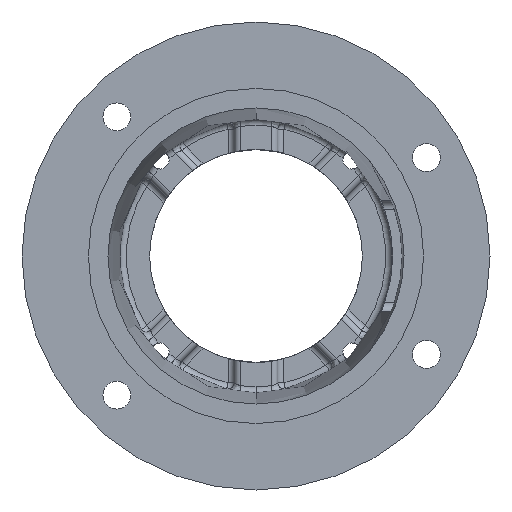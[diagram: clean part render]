
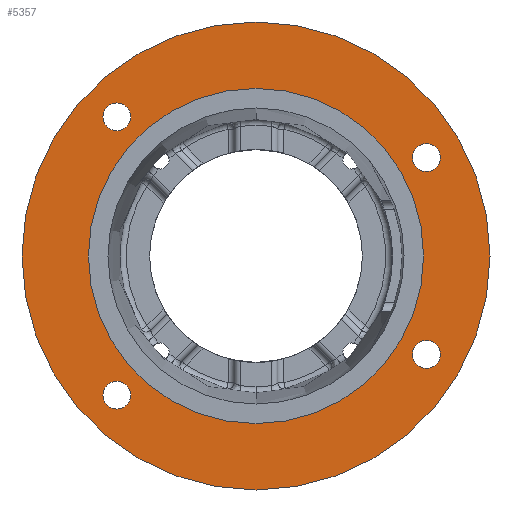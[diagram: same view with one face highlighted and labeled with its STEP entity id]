
A CAD part, front view. The second image highlights one B-rep face of the part: STEP entity #5357.
In plain terms, the highlighted planar face has unit normal (0, -1, 0).
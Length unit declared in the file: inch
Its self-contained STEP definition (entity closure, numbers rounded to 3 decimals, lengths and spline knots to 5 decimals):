
#368 = CARTESIAN_POINT ( 'NONE',  ( -3.27037, 0., -2.94224 ) ) ;
#427 = AXIS2_PLACEMENT_3D ( 'NONE', #12042, #5772, #13085 ) ;
#643 = ORIENTED_EDGE ( 'NONE', *, *, #6826, .F. ) ;
#688 = VERTEX_POINT ( 'NONE', #12133 ) ;
#739 = DIRECTION ( 'NONE',  ( 0., -1., 0. ) ) ;
#740 = DIRECTION ( 'NONE',  ( 0., -1., 0. ) ) ;
#776 = CIRCLE ( 'NONE', #10566, 0.32812 ) ;
#809 = AXIS2_PLACEMENT_3D ( 'NONE', #875, #8376, #2003 ) ;
#875 = CARTESIAN_POINT ( 'NONE',  ( 0., 0., 0. ) ) ;
#958 = VERTEX_POINT ( 'NONE', #7758 ) ;
#1030 = AXIS2_PLACEMENT_3D ( 'NONE', #8005, #1617, #9056 ) ;
#1033 = DIRECTION ( 'NONE',  ( 0., -1., 0. ) ) ;
#1495 = CIRCLE ( 'NONE', #5840, 0.32812 ) ;
#1596 = EDGE_LOOP ( 'NONE', ( #13241, #8088 ) ) ;
#1617 = DIRECTION ( 'NONE',  ( 0., -1., 0. ) ) ;
#1801 = ORIENTED_EDGE ( 'NONE', *, *, #4926, .F. ) ;
#2003 = DIRECTION ( 'NONE',  ( 0., 0., -1. ) ) ;
#2177 = CARTESIAN_POINT ( 'NONE',  ( -5.5, 0., 0. ) ) ;
#2461 = AXIS2_PLACEMENT_3D ( 'NONE', #10995, #4760, #12060 ) ;
#2519 = EDGE_CURVE ( 'NONE', #4285, #9433, #4364, .T. ) ;
#2583 = DIRECTION ( 'NONE',  ( 0., -1., 0. ) ) ;
#2680 = CARTESIAN_POINT ( 'NONE',  ( 0., 0., -5.5 ) ) ;
#2692 = CARTESIAN_POINT ( 'NONE',  ( 4.00537, 0., 2.64062 ) ) ;
#2835 = CARTESIAN_POINT ( 'NONE',  ( 4.00537, 0., 1.98437 ) ) ;
#3043 = CIRCLE ( 'NONE', #2461, 5.5 ) ;
#3450 = CIRCLE ( 'NONE', #4695, 0.32812 ) ;
#3554 = CARTESIAN_POINT ( 'NONE',  ( -3.27037, 0., -3.27037 ) ) ;
#3746 = VERTEX_POINT ( 'NONE', #4020 ) ;
#4020 = CARTESIAN_POINT ( 'NONE',  ( -3.27037, 0., 2.94224 ) ) ;
#4285 = VERTEX_POINT ( 'NONE', #9624 ) ;
#4364 = CIRCLE ( 'NONE', #9177, 0.32812 ) ;
#4638 = EDGE_CURVE ( 'NONE', #8581, #3746, #4839, .T. ) ;
#4678 = DIRECTION ( 'NONE',  ( 0., 0., -1. ) ) ;
#4695 = AXIS2_PLACEMENT_3D ( 'NONE', #7474, #1033, #8522 ) ;
#4760 = DIRECTION ( 'NONE',  ( 0., -1., 0. ) ) ;
#4768 = EDGE_CURVE ( 'NONE', #5009, #958, #3450, .T. ) ;
#4839 = CIRCLE ( 'NONE', #7049, 0.32812 ) ;
#4926 = EDGE_CURVE ( 'NONE', #958, #5009, #8394, .T. ) ;
#5009 = VERTEX_POINT ( 'NONE', #368 ) ;
#5024 = DIRECTION ( 'NONE',  ( 0., -1., 0. ) ) ;
#5340 = VERTEX_POINT ( 'NONE', #11637 ) ;
#5357 = ADVANCED_FACE ( 'NONE', ( #6738, #8859, #8544, #11308, #6083, #13779 ), #10629, .F. ) ;
#5772 = DIRECTION ( 'NONE',  ( 0., -1., 0. ) ) ;
#5792 = EDGE_CURVE ( 'NONE', #8213, #688, #13283, .T. ) ;
#5840 = AXIS2_PLACEMENT_3D ( 'NONE', #8949, #2583, #9989 ) ;
#5985 = ORIENTED_EDGE ( 'NONE', *, *, #2519, .F. ) ;
#6083 = FACE_BOUND ( 'NONE', #1596, .T. ) ;
#6119 = VERTEX_POINT ( 'NONE', #2680 ) ;
#6124 = CARTESIAN_POINT ( 'NONE',  ( 0., 0., 0. ) ) ;
#6281 = DIRECTION ( 'NONE',  ( 0., 0., -1. ) ) ;
#6299 = ORIENTED_EDGE ( 'NONE', *, *, #11762, .T. ) ;
#6306 = AXIS2_PLACEMENT_3D ( 'NONE', #11275, #5024, #12311 ) ;
#6485 = DIRECTION ( 'NONE',  ( 0., 1., 0. ) ) ;
#6527 = CARTESIAN_POINT ( 'NONE',  ( 0., 0., 3.9385 ) ) ;
#6738 = FACE_BOUND ( 'NONE', #12981, .T. ) ;
#6826 = EDGE_CURVE ( 'NONE', #9433, #4285, #12259, .T. ) ;
#6965 = EDGE_LOOP ( 'NONE', ( #10778, #6299 ) ) ;
#7049 = AXIS2_PLACEMENT_3D ( 'NONE', #7198, #740, #8242 ) ;
#7162 = CIRCLE ( 'NONE', #6306, 0.32812 ) ;
#7188 = DIRECTION ( 'NONE',  ( 0., 0., -1. ) ) ;
#7197 = CARTESIAN_POINT ( 'NONE',  ( 4.00537, 0., 2.3125 ) ) ;
#7198 = CARTESIAN_POINT ( 'NONE',  ( -3.27037, 0., 3.27037 ) ) ;
#7207 = EDGE_CURVE ( 'NONE', #12834, #9292, #1495, .T. ) ;
#7305 = DIRECTION ( 'NONE',  ( 0., -1., 0. ) ) ;
#7354 = CARTESIAN_POINT ( 'NONE',  ( 4.00537, 0., -2.3125 ) ) ;
#7389 = CIRCLE ( 'NONE', #809, 3.9385 ) ;
#7395 = CARTESIAN_POINT ( 'NONE',  ( -3.27037, 0., 3.59849 ) ) ;
#7474 = CARTESIAN_POINT ( 'NONE',  ( -3.27037, 0., -3.27037 ) ) ;
#7758 = CARTESIAN_POINT ( 'NONE',  ( -3.27037, 0., -3.59849 ) ) ;
#7891 = EDGE_CURVE ( 'NONE', #3746, #8581, #7162, .T. ) ;
#7907 = ORIENTED_EDGE ( 'NONE', *, *, #7207, .F. ) ;
#8005 = CARTESIAN_POINT ( 'NONE',  ( 4.00537, 0., -2.3125 ) ) ;
#8088 = ORIENTED_EDGE ( 'NONE', *, *, #5792, .F. ) ;
#8091 = EDGE_LOOP ( 'NONE', ( #9242, #10813 ) ) ;
#8213 = VERTEX_POINT ( 'NONE', #6527 ) ;
#8239 = DIRECTION ( 'NONE',  ( 0., 0., -1. ) ) ;
#8242 = DIRECTION ( 'NONE',  ( 0., 0., -1. ) ) ;
#8376 = DIRECTION ( 'NONE',  ( 0., -1., 0. ) ) ;
#8394 = CIRCLE ( 'NONE', #12377, 0.32812 ) ;
#8522 = DIRECTION ( 'NONE',  ( 0., 0., -1. ) ) ;
#8544 = FACE_BOUND ( 'NONE', #10397, .T. ) ;
#8547 = AXIS2_PLACEMENT_3D ( 'NONE', #6124, #13445, #7188 ) ;
#8581 = VERTEX_POINT ( 'NONE', #7395 ) ;
#8859 = FACE_BOUND ( 'NONE', #13323, .T. ) ;
#8949 = CARTESIAN_POINT ( 'NONE',  ( 4.00537, 0., 2.3125 ) ) ;
#9033 = ORIENTED_EDGE ( 'NONE', *, *, #13239, .F. ) ;
#9056 = DIRECTION ( 'NONE',  ( 0., 0., -1. ) ) ;
#9177 = AXIS2_PLACEMENT_3D ( 'NONE', #7354, #7305, #6281 ) ;
#9242 = ORIENTED_EDGE ( 'NONE', *, *, #7891, .F. ) ;
#9248 = ORIENTED_EDGE ( 'NONE', *, *, #4768, .F. ) ;
#9292 = VERTEX_POINT ( 'NONE', #2835 ) ;
#9433 = VERTEX_POINT ( 'NONE', #11596 ) ;
#9624 = CARTESIAN_POINT ( 'NONE',  ( 4.00537, 0., -2.64063 ) ) ;
#9756 = AXIS2_PLACEMENT_3D ( 'NONE', #2177, #6485, #13802 ) ;
#9989 = DIRECTION ( 'NONE',  ( 0., 0., -1. ) ) ;
#10397 = EDGE_LOOP ( 'NONE', ( #1801, #9248 ) ) ;
#10566 = AXIS2_PLACEMENT_3D ( 'NONE', #7197, #739, #8239 ) ;
#10629 = PLANE ( 'NONE',  #9756 ) ;
#10778 = ORIENTED_EDGE ( 'NONE', *, *, #12165, .T. ) ;
#10813 = ORIENTED_EDGE ( 'NONE', *, *, #4638, .F. ) ;
#10910 = DIRECTION ( 'NONE',  ( 0., -1., 0. ) ) ;
#10933 = CIRCLE ( 'NONE', #427, 5.5 ) ;
#10995 = CARTESIAN_POINT ( 'NONE',  ( 0., 0., 0. ) ) ;
#11063 = EDGE_CURVE ( 'NONE', #688, #8213, #7389, .T. ) ;
#11275 = CARTESIAN_POINT ( 'NONE',  ( -3.27037, 0., 3.27037 ) ) ;
#11308 = FACE_BOUND ( 'NONE', #8091, .T. ) ;
#11596 = CARTESIAN_POINT ( 'NONE',  ( 4.00537, 0., -1.98438 ) ) ;
#11637 = CARTESIAN_POINT ( 'NONE',  ( 0., 0., 5.5 ) ) ;
#11762 = EDGE_CURVE ( 'NONE', #5340, #6119, #3043, .T. ) ;
#12042 = CARTESIAN_POINT ( 'NONE',  ( 0., 0., 0. ) ) ;
#12060 = DIRECTION ( 'NONE',  ( 0., 0., -1. ) ) ;
#12133 = CARTESIAN_POINT ( 'NONE',  ( 0., 0., -3.9385 ) ) ;
#12165 = EDGE_CURVE ( 'NONE', #6119, #5340, #10933, .T. ) ;
#12259 = CIRCLE ( 'NONE', #1030, 0.32812 ) ;
#12311 = DIRECTION ( 'NONE',  ( 0., 0., -1. ) ) ;
#12377 = AXIS2_PLACEMENT_3D ( 'NONE', #3554, #10910, #4678 ) ;
#12834 = VERTEX_POINT ( 'NONE', #2692 ) ;
#12981 = EDGE_LOOP ( 'NONE', ( #9033, #7907 ) ) ;
#13085 = DIRECTION ( 'NONE',  ( 0., 0., -1. ) ) ;
#13239 = EDGE_CURVE ( 'NONE', #9292, #12834, #776, .T. ) ;
#13241 = ORIENTED_EDGE ( 'NONE', *, *, #11063, .F. ) ;
#13283 = CIRCLE ( 'NONE', #8547, 3.9385 ) ;
#13323 = EDGE_LOOP ( 'NONE', ( #5985, #643 ) ) ;
#13445 = DIRECTION ( 'NONE',  ( 0., -1., 0. ) ) ;
#13779 = FACE_OUTER_BOUND ( 'NONE', #6965, .T. ) ;
#13802 = DIRECTION ( 'NONE',  ( 0., 0., 1. ) ) ;
